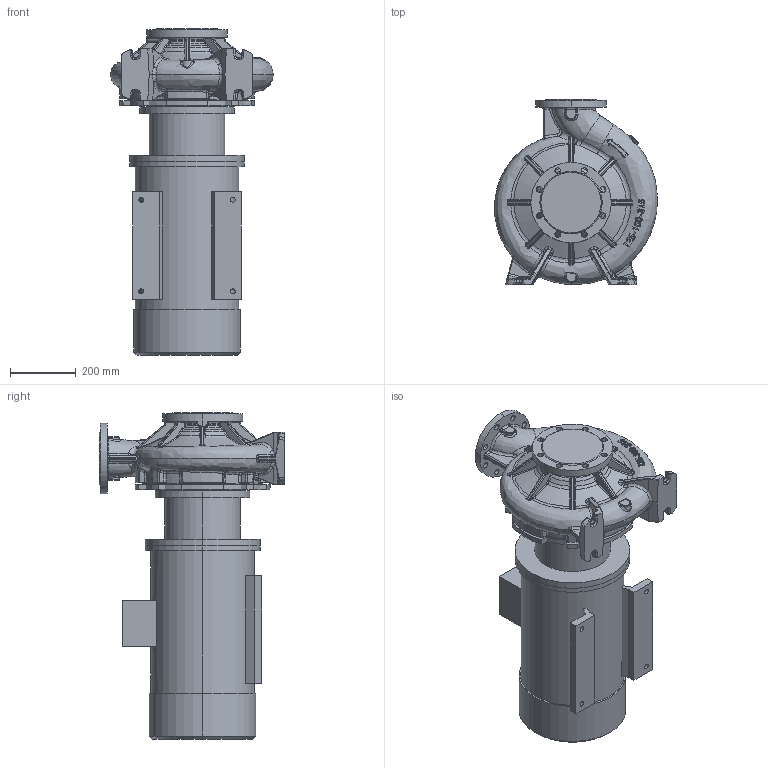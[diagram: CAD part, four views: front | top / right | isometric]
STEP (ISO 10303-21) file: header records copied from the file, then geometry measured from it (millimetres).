
FILE_DESCRIPTION (( 'STEP AP214' ), '1' );
FILE_NAME ('KRM 125-100-315-4-22.STEP', '2026-04-20T12:18:20', ( '' ), ( '' ), 'SwSTEP 2.0', 'SolidWorks 2016', '' );
FILE_SCHEMA (( 'AUTOMOTIVE_DESIGN' ));
Length unit declared in the file: millimetre
Products named in the file (1): KRM 125-100-315-4-22
Bounding box: 496.7 x 565 x 995.8 mm (x, y, z)
Volume: 88711409.5 mm3; surface area: 2589333.4 mm2
Topology: 12 solids, 12 shells, 1418 faces, 3411 edges, 2018 vertices
Faces by surface type: bspline 657, cylinder 284, plane 269, torus 98, cone 86, sphere 24
Entity records: 109834 total; most frequent: CARTESIAN_POINT 66367, ORIENTED_EDGE 6742, DIRECTION 4493, EDGE_CURVE 3371, VERTEX_POINT 2018, AXIS2_PLACEMENT_3D 1872, EDGE_LOOP 1499, UNCERTAINTY_MEASURE_WITH_UNIT 1432
